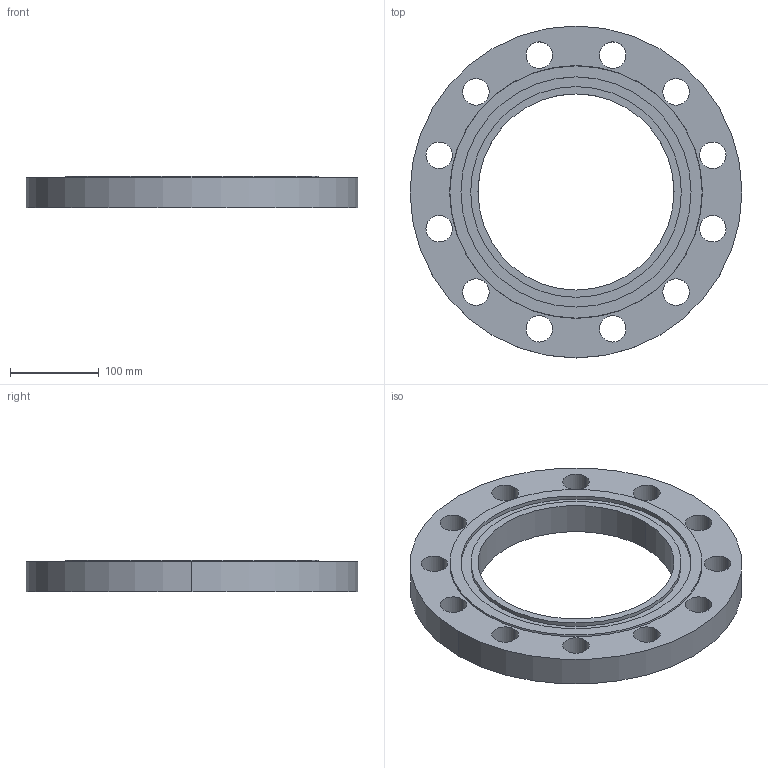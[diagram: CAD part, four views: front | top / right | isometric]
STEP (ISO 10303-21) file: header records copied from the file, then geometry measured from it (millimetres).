
FILE_DESCRIPTION (( 'STEP AP214' ), '1' );
FILE_NAME ('PN40 DN200 Type 01 - Type D Face.STEP', '2019-01-05T02:28:30', ( '' ), ( '' ), 'SwSTEP 2.0', 'SolidWorks 2019', '' );
FILE_SCHEMA (( 'AUTOMOTIVE_DESIGN' ));
Length unit declared in the file: millimetre
Products named in the file (1): PN40 DN200 Type 01 - Type D Face
Bounding box: 375 x 375 x 36 mm (x, y, z)
Volume: 2168766.6 mm3; surface area: 238966 mm2
Topology: 1 solids, 1 shells, 39 faces, 102 edges, 68 vertices
Faces by surface type: cylinder 32, plane 5, cone 2
Entity records: 1330 total; most frequent: DIRECTION 250, CARTESIAN_POINT 210, ORIENTED_EDGE 204, AXIS2_PLACEMENT_3D 108, EDGE_CURVE 102, CIRCLE 68, VERTEX_POINT 68, EDGE_LOOP 68
